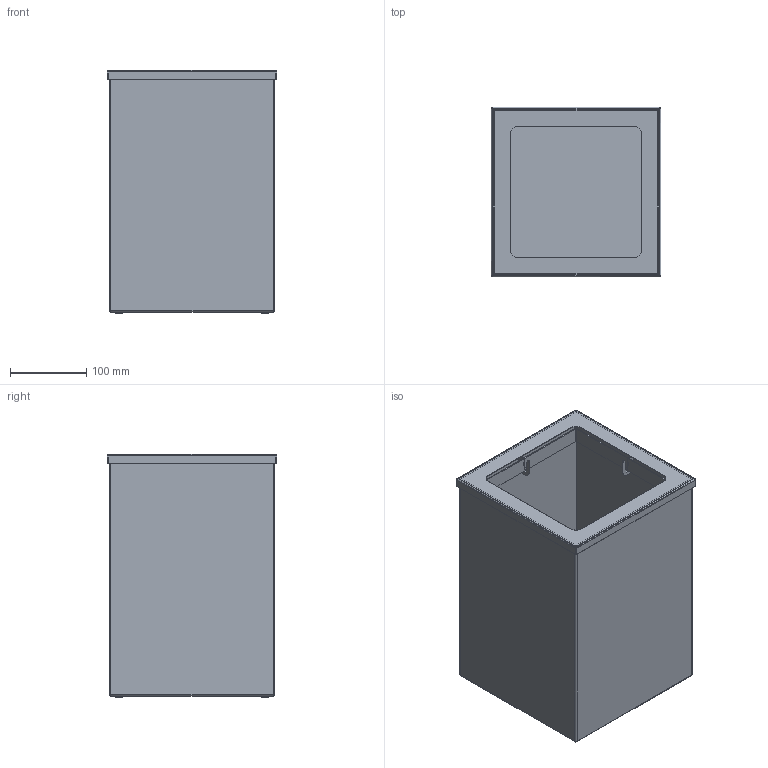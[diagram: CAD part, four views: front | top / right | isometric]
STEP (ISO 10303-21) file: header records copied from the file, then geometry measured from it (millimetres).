
FILE_DESCRIPTION (( 'STEP AP214' ), '1' );
FILE_NAME ('Kosz na œmieci DELLA.STEP', '2023-06-21T13:45:38', ( '' ), ( '' ), 'SwSTEP 2.0', 'SolidWorks 2021', '' );
FILE_SCHEMA (( 'AUTOMOTIVE_DESIGN' ));
Length unit declared in the file: millimetre
Products named in the file (6): stopka gumowa 10mm_7mm; Haczyk do wizualizacji; korpus do wizualizacji; 11-001-0319-S-03-00; 11-003-0319-S-02-01; Kosz na œmieci DELLA
Assembly tree (11 placements, depth 2):
  Kosz na œmieci DELLA
    korpus do wizualizacji
    11-003-0319-S-02-01
    stopka gumowa 10mm_7mm  x4
    Haczyk do wizualizacji  x4
    11-001-0319-S-03-00
Bounding box: 222 x 222 x 318 mm (x, y, z)
Volume: 682511.6 mm3; surface area: 726415.5 mm2
Topology: 11 solids, 11 shells, 201 faces, 450 edges, 272 vertices
Faces by surface type: plane 121, cylinder 60, bspline 8, torus 8, sphere 4
Entity records: 4062 total; most frequent: CARTESIAN_POINT 1074, DIRECTION 580, ORIENTED_EDGE 544, EDGE_CURVE 272, VECTOR 196, LINE 196, AXIS2_PLACEMENT_3D 192, VERTEX_POINT 158
